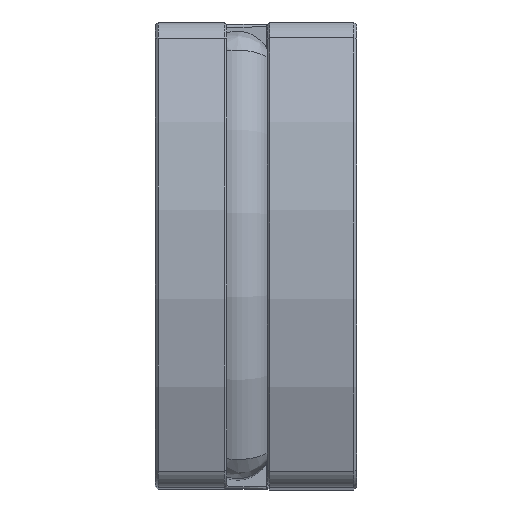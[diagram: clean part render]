
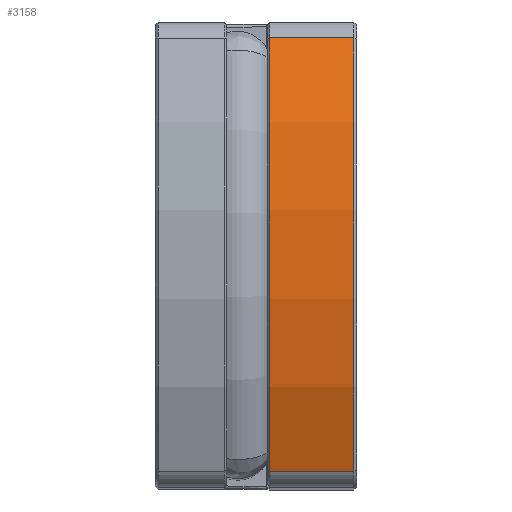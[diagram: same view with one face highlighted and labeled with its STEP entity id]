
A CAD part, top view. The second image highlights one B-rep face of the part: STEP entity #3158.
In plain terms, the highlighted cylindrical face has radius 60 mm (diameter 120 mm), a partial arc.
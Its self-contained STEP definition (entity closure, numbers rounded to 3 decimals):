
#73=CYLINDRICAL_SURFACE('',#3450,60.);
#268=FACE_OUTER_BOUND('',#484,.T.);
#484=EDGE_LOOP('',(#2283,#2284,#2285,#2286));
#713=LINE('',#5161,#909);
#714=LINE('',#5163,#910);
#909=VECTOR('',#4063,10.);
#910=VECTOR('',#4066,10.);
#1104=CIRCLE('',#3421,60.);
#1113=CIRCLE('',#3446,60.);
#1370=VERTEX_POINT('',#5091);
#1371=VERTEX_POINT('',#5095);
#1382=VERTEX_POINT('',#5150);
#1383=VERTEX_POINT('',#5154);
#1687=EDGE_CURVE('',#1371,#1370,#1104,.T.);
#1718=EDGE_CURVE('',#1383,#1382,#1113,.T.);
#1721=EDGE_CURVE('',#1382,#1371,#713,.T.);
#1722=EDGE_CURVE('',#1370,#1383,#714,.T.);
#2283=ORIENTED_EDGE('',*,*,#1687,.F.);
#2284=ORIENTED_EDGE('',*,*,#1721,.F.);
#2285=ORIENTED_EDGE('',*,*,#1718,.F.);
#2286=ORIENTED_EDGE('',*,*,#1722,.F.);
#3158=ADVANCED_FACE('',(#268),#73,.T.);
#3421=AXIS2_PLACEMENT_3D('',#5097,#3982,#3983);
#3446=AXIS2_PLACEMENT_3D('',#5156,#4054,#4055);
#3450=AXIS2_PLACEMENT_3D('',#5162,#4064,#4065);
#3982=DIRECTION('center_axis',(1.,0.,0.));
#3983=DIRECTION('ref_axis',(0.,-0.433,0.901));
#4054=DIRECTION('center_axis',(-1.,0.,0.));
#4055=DIRECTION('ref_axis',(0.,-0.433,0.901));
#4063=DIRECTION('',(1.,0.,0.));
#4064=DIRECTION('center_axis',(-1.,0.,0.));
#4065=DIRECTION('ref_axis',(0.,-0.433,0.901));
#4066=DIRECTION('',(-1.,0.,0.));
#5091=CARTESIAN_POINT('',(22.2,-24.211,66.899));
#5095=CARTESIAN_POINT('',(22.2,24.211,66.899));
#5097=CARTESIAN_POINT('Origin',(22.2,0.,
12.));
#5150=CARTESIAN_POINT('',(12.8,24.211,66.899));
#5154=CARTESIAN_POINT('',(12.8,-24.211,66.899));
#5156=CARTESIAN_POINT('Origin',(12.8,0.,
12.));
#5161=CARTESIAN_POINT('',(22.5,24.211,66.899));
#5162=CARTESIAN_POINT('Origin',(22.5,0.,
12.));
#5163=CARTESIAN_POINT('',(22.5,-24.211,66.899));
